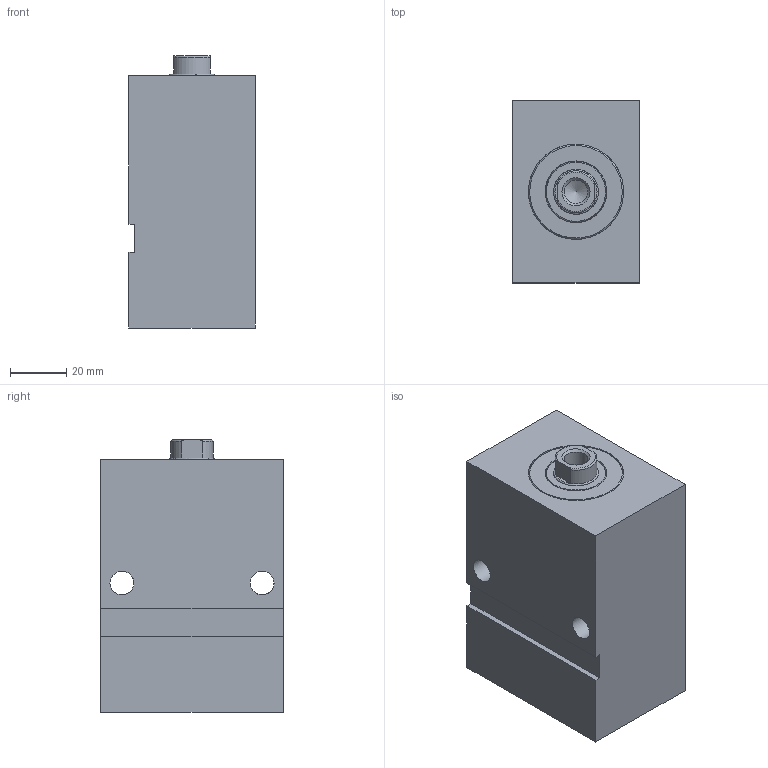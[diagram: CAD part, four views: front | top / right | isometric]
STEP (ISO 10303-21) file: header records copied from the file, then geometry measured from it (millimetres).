
FILE_DESCRIPTION( ( 'STEP AP203' ), '1' );
FILE_NAME( 'C:/Users/SAYKO.ltd/Desktop/SBZ100/03/SBZ100-25/SBZ100.25__FORM_03_STROKE_25__H2_58_POS_0_.stp', ' ', ( ' ' ), ( ' ' ), 'PSStep 15.0.47', 'PARTsolutions', ' ' );
FILE_SCHEMA( ( 'CONFIG_CONTROL_DESIGN' ) );
Length unit declared in the file: millimetre
Products named in the file (5): SBZ100.25  FORM=03 STROKE=25 (H2=58 POS=0); HI_SBZ10025  FORM=03 STROKE=25 H2=58 -C; HI_SBZ10025  FORM=03 STROKE=25-R; HI_SBZ100.25-C; HI_SBZ100.25-S
Assembly tree (4 placements, depth 2):
  SBZ100.25  FORM=03 STROKE=25 (H2=58 POS=0)
    HI_SBZ10025  FORM=03 STROKE=25 H2=58 -C
    HI_SBZ10025  FORM=03 STROKE=25-R
    HI_SBZ100.25-C
    HI_SBZ100.25-S
Bounding box: 45 x 65 x 97 mm (x, y, z)
Volume: 246173.6 mm3; surface area: 49283.1 mm2
Topology: 4 solids, 4 shells, 60 faces, 124 edges, 81 vertices
Faces by surface type: plane 31, cylinder 22, cone 4, torus 3
Full cylindrical faces by diameter (mm): 3 x2, 8.376 x1, 8.5 x2, 11.445 x2, 16 x6, 22 x1, 24 x2, 25 x2, 34 x2
Entity records: 3143 total; most frequent: CARTESIAN_POINT 1971, ORIENTED_EDGE 176, DIRECTION 154, EDGE_LOOP 108, EDGE_CURVE 88, FACE_OUTER_BOUND 81, VERTEX_POINT 73, AXIS2_PLACEMENT_3D 65
